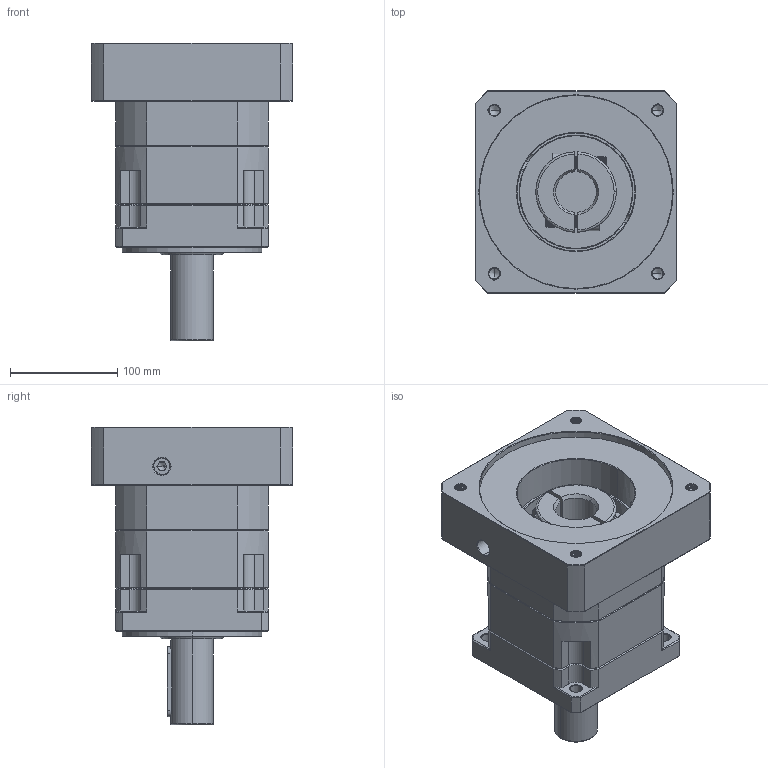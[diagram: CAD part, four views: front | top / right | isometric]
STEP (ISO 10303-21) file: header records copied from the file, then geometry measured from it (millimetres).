
FILE_DESCRIPTION (( 'STEP AP214' ), '1' );
FILE_NAME ('ZB142A-D40-L1-P2-38-180-215-M12.step', '2023-09-01T11:42:23', ( '' ), ( '' ), 'SwSTEP 2.0', 'SolidWorks 2016', '' );
FILE_SCHEMA (( 'AUTOMOTIVE_DESIGN' ));
Length unit declared in the file: millimetre
Products named in the file (1): ZB142A-D40-L1-P2-38-180-215-M12
Bounding box: 188 x 188 x 277.2 mm (x, y, z)
Volume: 3991161.1 mm3; surface area: 332041.7 mm2
Topology: 6 solids, 6 shells, 2302 faces, 6176 edges, 3978 vertices
Faces by surface type: plane 1103, cylinder 414, bspline 411, cone 352, torus 22
Entity records: 129643 total; most frequent: CARTESIAN_POINT 49913, ORIENTED_EDGE 12292, DIRECTION 9768, EDGE_CURVE 6146, VERTEX_POINT 3978, LINE 3888, VECTOR 3888, AXIS2_PLACEMENT_3D 2940
